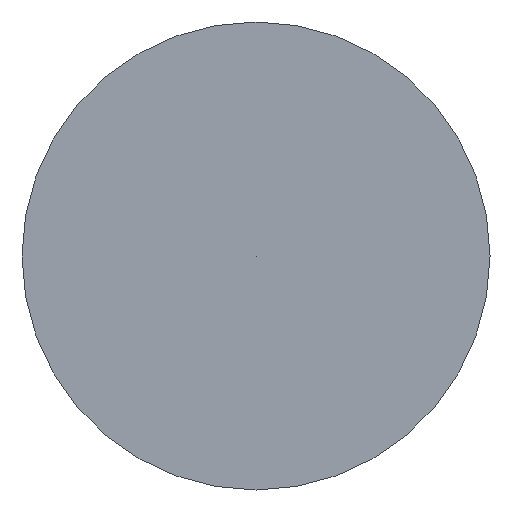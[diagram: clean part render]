
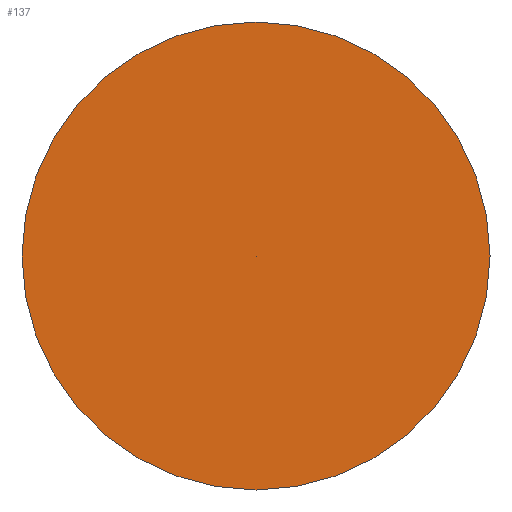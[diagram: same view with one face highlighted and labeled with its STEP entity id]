
A CAD part, front view. The second image highlights one B-rep face of the part: STEP entity #137.
In plain terms, the highlighted planar face has unit normal (0, -1, 0).
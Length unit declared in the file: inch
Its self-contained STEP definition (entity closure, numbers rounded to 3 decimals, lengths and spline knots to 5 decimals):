
#7 = ORIENTED_EDGE ( 'NONE', *, *, #55, .F. ) ;
#8 = CARTESIAN_POINT ( 'NONE',  ( 0., 3543.30709, -196.85039 ) ) ;
#10 = EDGE_CURVE ( 'NONE', #140, #230, #135, .T. ) ;
#11 = DIRECTION ( 'NONE',  ( 0., 0., -1. ) ) ;
#27 = DIRECTION ( 'NONE',  ( 0., -1., 0. ) ) ;
#31 = CARTESIAN_POINT ( 'NONE',  ( 0., 3543.30709, 0. ) ) ;
#50 = ORIENTED_EDGE ( 'NONE', *, *, #64, .T. ) ;
#54 = AXIS2_PLACEMENT_3D ( 'NONE', #125, #274, #231 ) ;
#55 = EDGE_CURVE ( 'NONE', #140, #159, #66, .T. ) ;
#56 = CARTESIAN_POINT ( 'NONE',  ( 196.85039, 3543.30709, 0. ) ) ;
#60 = FACE_OUTER_BOUND ( 'NONE', #124, .T. ) ;
#61 = ORIENTED_EDGE ( 'NONE', *, *, #97, .T. ) ;
#64 = EDGE_CURVE ( 'NONE', #153, #159, #129, .T. ) ;
#66 = LINE ( 'NONE', #193, #204 ) ;
#82 = VECTOR ( 'NONE', #132, 39.37008 ) ;
#89 = DIRECTION ( 'NONE',  ( 1., 0., 0. ) ) ;
#97 = EDGE_CURVE ( 'NONE', #162, #153, #133, .T. ) ;
#124 = EDGE_LOOP ( 'NONE', ( #276, #61, #50, #7, #266 ) ) ;
#125 = CARTESIAN_POINT ( 'NONE',  ( 0., 3543.30709, 0. ) ) ;
#126 = PLANE ( 'NONE',  #154 ) ;
#129 = CIRCLE ( 'NONE', #243, 196.85039 ) ;
#132 = DIRECTION ( 'NONE',  ( 1., 0., 0. ) ) ;
#133 = CIRCLE ( 'NONE', #272, 196.85039 ) ;
#135 = LINE ( 'NONE', #136, #82 ) ;
#136 = CARTESIAN_POINT ( 'NONE',  ( 0., 3543.30709, 0. ) ) ;
#137 = ADVANCED_FACE ( 'NONE', ( #60 ), #126, .T. ) ;
#140 = VERTEX_POINT ( 'NONE', #146 ) ;
#146 = CARTESIAN_POINT ( 'NONE',  ( 0., 3543.30709, 0. ) ) ;
#150 = CARTESIAN_POINT ( 'NONE',  ( 0., 3543.30709, 0. ) ) ;
#153 = VERTEX_POINT ( 'NONE', #8 ) ;
#154 = AXIS2_PLACEMENT_3D ( 'NONE', #150, #170, #11 ) ;
#157 = DIRECTION ( 'NONE',  ( 0., -1., 0. ) ) ;
#159 = VERTEX_POINT ( 'NONE', #56 ) ;
#162 = VERTEX_POINT ( 'NONE', #171 ) ;
#170 = DIRECTION ( 'NONE',  ( 0., -1., 0. ) ) ;
#171 = CARTESIAN_POINT ( 'NONE',  ( 0., 3543.30709, 196.85039 ) ) ;
#182 = DIRECTION ( 'NONE',  ( 0., 0., -1. ) ) ;
#183 = EDGE_CURVE ( 'NONE', #230, #162, #185, .T. ) ;
#185 = CIRCLE ( 'NONE', #54, 196.85039 ) ;
#193 = CARTESIAN_POINT ( 'NONE',  ( 0., 3543.30709, 0. ) ) ;
#204 = VECTOR ( 'NONE', #89, 39.37008 ) ;
#230 = VERTEX_POINT ( 'NONE', #256 ) ;
#231 = DIRECTION ( 'NONE',  ( 0., 0., -1. ) ) ;
#239 = CARTESIAN_POINT ( 'NONE',  ( 0., 3543.30709, 0. ) ) ;
#243 = AXIS2_PLACEMENT_3D ( 'NONE', #239, #157, #182 ) ;
#256 = CARTESIAN_POINT ( 'NONE',  ( 196.85039, 3543.30709, 0. ) ) ;
#266 = ORIENTED_EDGE ( 'NONE', *, *, #10, .T. ) ;
#272 = AXIS2_PLACEMENT_3D ( 'NONE', #31, #27, #278 ) ;
#274 = DIRECTION ( 'NONE',  ( 0., -1., 0. ) ) ;
#276 = ORIENTED_EDGE ( 'NONE', *, *, #183, .T. ) ;
#278 = DIRECTION ( 'NONE',  ( 0., 0., -1. ) ) ;
